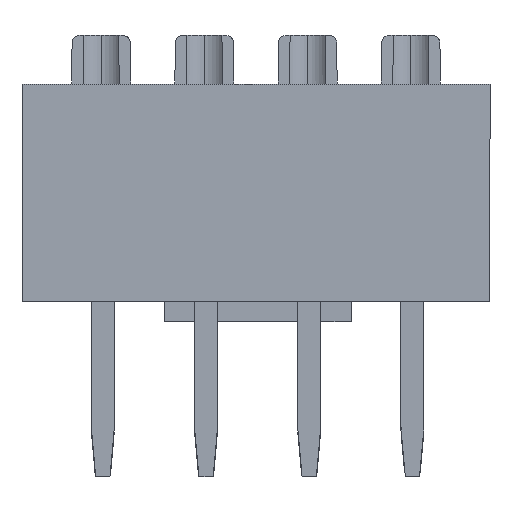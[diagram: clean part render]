
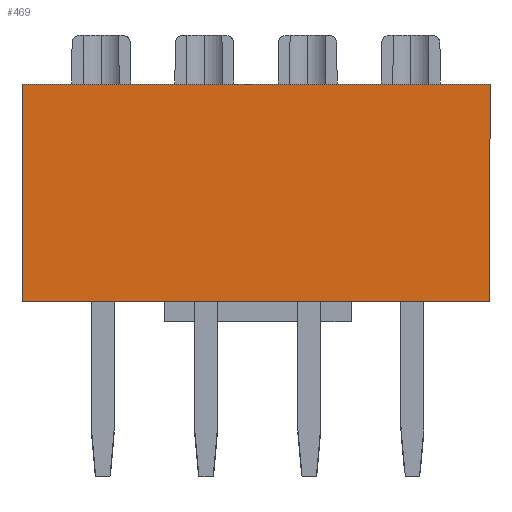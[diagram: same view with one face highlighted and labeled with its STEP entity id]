
A CAD part, front view. The second image highlights one B-rep face of the part: STEP entity #469.
In plain terms, the highlighted planar face has unit normal (0, -1, 0).
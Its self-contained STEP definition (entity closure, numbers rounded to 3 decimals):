
#417 = DIRECTION ( 'NONE',  ( 1., 0., 0. ) ) ;
#469 = ADVANCED_FACE ( 'NONE', ( #2603 ), #21644, .T. ) ;
#636 = DIRECTION ( 'NONE',  ( 1., 0., 0. ) ) ;
#725 = DIRECTION ( 'NONE',  ( 1., 0., 0. ) ) ;
#749 = EDGE_LOOP ( 'NONE', ( #17555, #3542, #12783, #22082 ) ) ;
#1422 = CARTESIAN_POINT ( 'NONE',  ( 11.52, -9.9, -5.35 ) ) ;
#2603 = FACE_OUTER_BOUND ( 'NONE', #749, .T. ) ;
#2612 = EDGE_CURVE ( 'NONE', #3511, #8317, #13449, .T. ) ;
#3511 = VERTEX_POINT ( 'NONE', #8378 ) ;
#3542 = ORIENTED_EDGE ( 'NONE', *, *, #17707, .F. ) ;
#3957 = CARTESIAN_POINT ( 'NONE',  ( 0., -9.9, -5.35 ) ) ;
#4186 = CARTESIAN_POINT ( 'NONE',  ( 0., -9.9, -2.675 ) ) ;
#4967 = VECTOR ( 'NONE', #16434, 1000. ) ;
#5768 = CARTESIAN_POINT ( 'NONE',  ( 0., -9.9, -5.35 ) ) ;
#7393 = VECTOR ( 'NONE', #20683, 1000. ) ;
#8317 = VERTEX_POINT ( 'NONE', #11260 ) ;
#8378 = CARTESIAN_POINT ( 'NONE',  ( 0., -9.9, 0. ) ) ;
#11121 = DIRECTION ( 'NONE',  ( 0., -1., 0. ) ) ;
#11260 = CARTESIAN_POINT ( 'NONE',  ( 11.52, -9.9, 0. ) ) ;
#11641 = EDGE_CURVE ( 'NONE', #17359, #19397, #13775, .T. ) ;
#12657 = CARTESIAN_POINT ( 'NONE',  ( 5.76, -9.9, -5.35 ) ) ;
#12659 = EDGE_CURVE ( 'NONE', #3511, #17359, #18400, .T. ) ;
#12783 = ORIENTED_EDGE ( 'NONE', *, *, #2612, .F. ) ;
#12888 = VECTOR ( 'NONE', #725, 1000. ) ;
#13449 = LINE ( 'NONE', #16407, #12888 ) ;
#13775 = LINE ( 'NONE', #12657, #22570 ) ;
#14232 = AXIS2_PLACEMENT_3D ( 'NONE', #5768, #11121, #636 ) ;
#16407 = CARTESIAN_POINT ( 'NONE',  ( 0., -9.9, 0. ) ) ;
#16434 = DIRECTION ( 'NONE',  ( 0., 0., -1. ) ) ;
#16733 = LINE ( 'NONE', #18904, #7393 ) ;
#17359 = VERTEX_POINT ( 'NONE', #3957 ) ;
#17555 = ORIENTED_EDGE ( 'NONE', *, *, #11641, .T. ) ;
#17707 = EDGE_CURVE ( 'NONE', #8317, #19397, #16733, .T. ) ;
#18400 = LINE ( 'NONE', #4186, #4967 ) ;
#18904 = CARTESIAN_POINT ( 'NONE',  ( 11.52, -9.9, -2.675 ) ) ;
#19397 = VERTEX_POINT ( 'NONE', #1422 ) ;
#20683 = DIRECTION ( 'NONE',  ( 0., 0., -1. ) ) ;
#21644 = PLANE ( 'NONE',  #14232 ) ;
#22082 = ORIENTED_EDGE ( 'NONE', *, *, #12659, .T. ) ;
#22570 = VECTOR ( 'NONE', #417, 1000. ) ;
